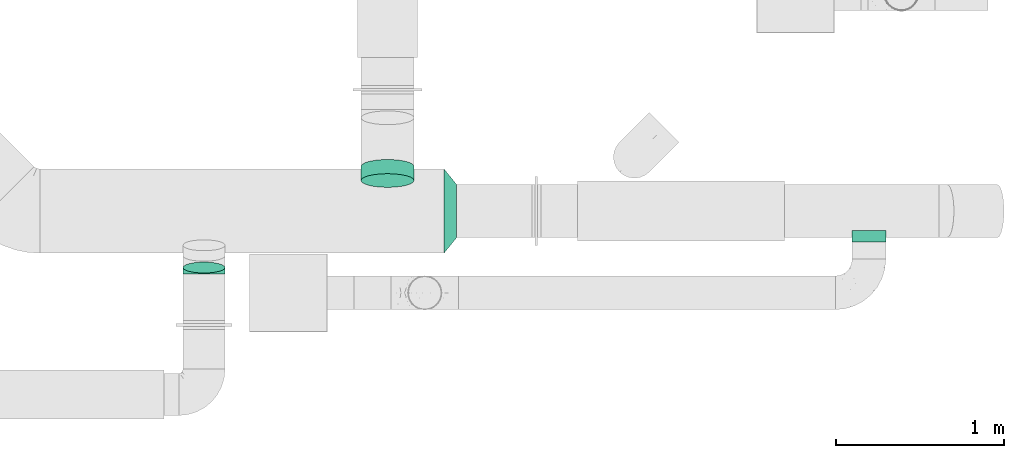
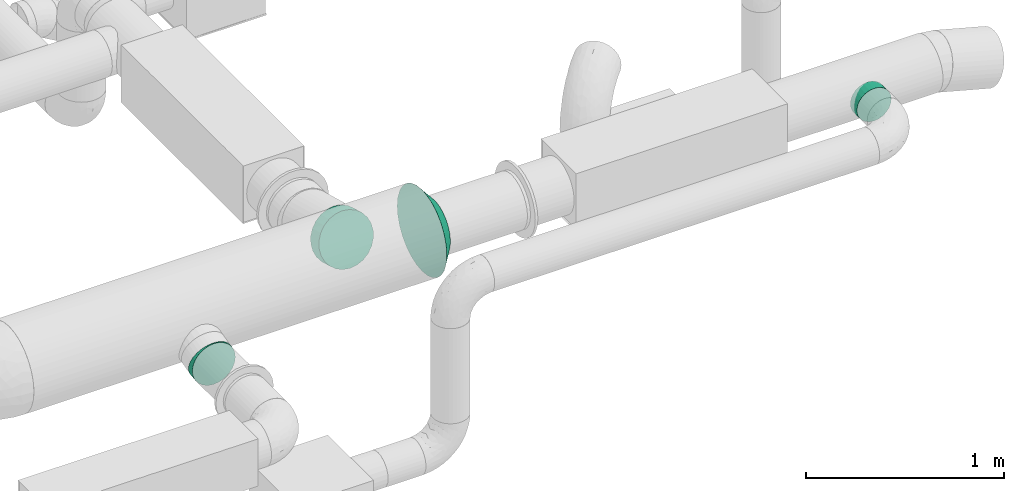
# One storey, part 29 of 31: 4 flow fittings.
"""IFC2X3 building model written with IfcOpenShell, lengths in millimetres."""

from ifc_helpers import new_model, entity, si_unit, converted_unit, derived_unit, direction, frame, origin_with_axes, place, context, subcontext, project, spatial, open_shell, surface_model, source, transform, mapped, type_object, element, save


model = new_model("IFC2X3")

# Units and contexts
model_context = context("Model", 3, precision=0.01, world=frame((0.0, 4.29681676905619e-09, 0.0)), true_north=direction((4.01073788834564e-13, 1.0)))
plan_context = context("Plan", 3, precision=0.01, world=frame((0.0, 4.29681676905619e-09, 0.0)), true_north=direction((4.01073788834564e-13, 1.0)))
body_context = subcontext(model_context, "Body", "Model", "MODEL_VIEW")
ifc_project = project(units=[converted_unit("PLANEANGLEUNIT", "DEGREE", entity("IfcPositiveLengthMeasure", 0.0174532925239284), si_unit("PLANEANGLEUNIT", "RADIAN"), dimensions=[0, 0, 0, 0, 0, 0, 0]), si_unit("AREAUNIT", "SQUARE_METRE"), si_unit("LENGTHUNIT", "METRE", prefix="MILLI"), si_unit("MASSUNIT", "GRAM", prefix="KILO"), si_unit("POWERUNIT", "WATT"), si_unit("PRESSUREUNIT", "PASCAL", prefix="KILO"), si_unit("FORCEUNIT", "NEWTON", prefix="KILO"), si_unit("ELECTRICVOLTAGEUNIT", "VOLT"), si_unit("ELECTRICCURRENTUNIT", "AMPERE"), si_unit("THERMODYNAMICTEMPERATUREUNIT", "DEGREE_CELSIUS"), si_unit("TIMEUNIT", "SECOND"), si_unit("VOLUMEUNIT", "CUBIC_METRE"), derived_unit("LINEARVELOCITYUNIT", [(si_unit("LENGTHUNIT", "METRE"), 1), (si_unit("TIMEUNIT", "SECOND"), -1)]), derived_unit("VOLUMETRICFLOWRATEUNIT", [(si_unit("VOLUMEUNIT", "CUBIC_METRE"), 1), (si_unit("TIMEUNIT", "SECOND"), -1)]), derived_unit("THERMALTRANSMITTANCEUNIT", [(si_unit("POWERUNIT", "WATT"), 1), (si_unit("THERMODYNAMICTEMPERATUREUNIT", "KELVIN"), -1), (si_unit("AREAUNIT", "SQUARE_METRE"), -1)]), derived_unit("SOUNDPRESSUREUNIT", [(si_unit("PRESSUREUNIT", "PASCAL"), 1)])], contexts=[model_context, plan_context])

# Site, building, storey
site_placement = place(None, frame((0.0, -4.29681676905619e-09, 0.0), z_axis=(0.0, 0.0, 1.0), x_axis=(1.0, 0.0, 0.0)))
site = spatial("IfcSite", under=ifc_project, at=site_placement, CompositionType="ELEMENT")
building_placement = place(site_placement, frame((0.0, 4.29681676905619e-09, 0.0), z_axis=(0.0, 0.0, 1.0), x_axis=(1.0, 0.0, 0.0)))
building = spatial("IfcBuilding", under=site, at=building_placement, Name="mc-building", CompositionType="ELEMENT")
storey_placement = place(building_placement, frame((0.0, 0.0, 210900.0), z_axis=(0.0, 0.0, 1.0), x_axis=(1.0, 0.0, 0.0)))
storey = spatial("IfcBuildingStorey", under=building, at=storey_placement, Name="Nivå F", CompositionType="ELEMENT", Elevation=210900.0)

# Flow fittings
duct_fitting_type_1 = type_object("IfcDuctFittingType", Name="magicirc_tapoutlet_001", PredefinedType="CONNECTOR")
shared_shape_1 = source(origin_with_axes(), body_context, "Body", "SurfaceModel", [
    surface_model("IfcShellBasedSurfaceModel", [(25.0, 40.764, -152.13332), (25.0, 157.5, 0.0), (25.0, 0.0, -157.5), (25.0, 78.75, -136.39901), (25.0, 136.39901, -78.75), (25.0, 111.36932, -111.36932), (25.0, -111.36932, -111.36932), (25.0, -152.13332, 40.764), (25.0, -78.75, -136.39901), (25.0, -40.764, -152.13332), (25.0, -136.39901, -78.75), (25.0, -152.13332, -40.764), (25.0, -157.5, 0.0), (25.0, 152.13332, -40.764), (25.0, 152.13332, 40.764), (25.0, 111.36932, 111.36932), (25.0, 136.39901, 78.75), (25.0, 78.75, 136.39901), (25.0, 40.764, 152.13332), (25.0, -111.36932, 111.36932), (25.0, -136.39901, 78.75), (25.0, -78.75, 136.39901), (25.0, -40.764, 152.13332), (25.0, 0.0, 157.5), (0.0, 0.0, 157.5), (0.0, 40.764, 152.13332), (0.0, 78.75, 136.39901), (0.0, 111.36932, 111.36932), (0.0, 136.39901, 78.75), (0.0, 152.13332, 40.764), (0.0, 157.5, 0.0), (0.0, 152.13332, -40.764), (0.0, 136.39901, -78.75), (0.0, 111.36932, -111.36932), (0.0, 0.0, -157.5), (0.0, 78.75, -136.39901), (0.0, 40.764, -152.13332), (0.0, -40.764, -152.13332), (0.0, -78.75, -136.39901), (0.0, -111.36932, -111.36932), (0.0, -136.39901, -78.75), (0.0, -152.13332, -40.764), (0.0, -157.5, 0.0), (0.0, -152.13332, 40.764), (0.0, -136.39901, 78.75), (0.0, -111.36932, 111.36932), (0.0, -78.75, 136.39901), (0.0, -40.764, 152.13332), (-61.94722, -111.36932, -111.36932), (-61.94722, -157.5, 0.0), (-61.94722, -78.75, -136.39901), (-61.94722, -152.13332, -40.764), (-61.94722, -136.39901, -78.75), (-61.94722, 111.36932, -111.36932), (-61.94722, 78.75, -136.39901), (-61.94722, 152.13332, -40.764), (-61.94722, 136.39901, -78.75), (-61.94722, 0.0, -157.5), (-61.94722, -40.764, -152.13332), (-61.94722, 40.764, -152.13332), (-61.94722, 152.13332, 40.764), (-61.94722, -152.13332, 40.764), (-61.94722, 111.36932, 111.36932), (-61.94722, 136.39901, 78.75), (-61.94722, 40.764, 152.13332), (-61.94722, 78.75, 136.39901), (-61.94722, 0.0, 157.5), (-61.94722, -111.36932, 111.36932), (-61.94722, -136.39901, 78.75), (-61.94722, -40.764, 152.13332), (-61.94722, -78.75, 136.39901), (-61.94722, 157.5, 0.0)], [open_shell([[[0, 1, 2]], [[3, 1, 0]], [[4, 1, 5]], [[5, 1, 3]], [[6, 2, 7]], [[2, 6, 8]], [[8, 9, 2]], [[10, 7, 11]], [[7, 10, 6]], [[11, 7, 12]], [[13, 1, 4]], [[2, 14, 15]], [[15, 14, 16]], [[17, 18, 2]], [[2, 15, 17]], [[2, 18, 19]], [[20, 7, 2]], [[19, 20, 2]], [[18, 21, 19]], [[22, 21, 18]], [[18, 23, 22]], [[1, 14, 2]], [[24, 23, 18]], [[25, 18, 17]], [[24, 18, 25]], [[26, 15, 27]], [[26, 25, 17]], [[15, 26, 17]], [[28, 16, 14]], [[29, 14, 1]], [[27, 16, 28]], [[29, 28, 14]], [[30, 29, 1]], [[16, 27, 15]], [[30, 1, 13]], [[31, 13, 4]], [[30, 13, 31]], [[32, 5, 33]], [[32, 31, 4]], [[5, 32, 4]], [[0, 2, 34]], [[3, 0, 35]], [[35, 33, 3]], [[36, 35, 0]], [[0, 34, 36]], [[3, 33, 5]], [[34, 2, 9]], [[37, 9, 8]], [[34, 9, 37]], [[38, 6, 39]], [[38, 37, 8]], [[6, 38, 8]], [[40, 10, 11]], [[41, 11, 12]], [[39, 10, 40]], [[41, 40, 11]], [[42, 41, 12]], [[10, 39, 6]], [[42, 12, 7]], [[43, 7, 20]], [[42, 7, 43]], [[44, 19, 45]], [[44, 43, 20]], [[19, 44, 20]], [[46, 21, 22]], [[47, 22, 23]], [[45, 21, 46]], [[47, 46, 22]], [[24, 47, 23]], [[21, 45, 19]], [[0, 14, 2]], [[14, 15, 2]], [[0, 1, 14]], [[48, 49, 50]], [[51, 49, 52]], [[40, 41, 51]], [[40, 51, 52]], [[50, 39, 48]], [[53, 33, 54]], [[55, 31, 32]], [[56, 55, 32]], [[57, 58, 59]], [[59, 60, 54]], [[53, 60, 56]], [[54, 60, 53]], [[59, 49, 61]], [[59, 58, 50]], [[48, 52, 49]], [[50, 49, 59]], [[55, 56, 60]], [[60, 59, 62]], [[63, 60, 62]], [[59, 64, 65]], [[65, 62, 59]], [[66, 64, 59]], [[67, 66, 68]], [[59, 61, 68]], [[69, 66, 70]], [[67, 70, 66]], [[59, 68, 66]], [[71, 55, 60]], [[66, 24, 25]], [[64, 25, 26]], [[66, 25, 64]], [[65, 27, 62]], [[65, 64, 26]], [[27, 65, 26]], [[63, 28, 29]], [[60, 29, 30]], [[62, 28, 63]], [[60, 63, 29]], [[71, 60, 30]], [[28, 62, 27]], [[71, 30, 31]], [[71, 31, 55]], [[56, 33, 53]], [[33, 56, 32]], [[59, 35, 36]], [[57, 36, 34]], [[59, 54, 35]], [[36, 57, 59]], [[54, 33, 35]], [[57, 34, 37]], [[58, 37, 38]], [[57, 37, 58]], [[50, 58, 38]], [[39, 50, 38]], [[41, 42, 51]], [[48, 40, 52]], [[49, 51, 42]], [[40, 48, 39]], [[49, 42, 43]], [[61, 43, 44]], [[49, 43, 61]], [[68, 45, 67]], [[68, 61, 44]], [[45, 68, 44]], [[70, 46, 47]], [[69, 47, 24]], [[67, 46, 70]], [[69, 70, 47]], [[66, 69, 24]], [[46, 67, 45]]])]),
])
flow_fitting_1_placement = place(storey_placement, frame((725584.4603, 438736.37985, 3885.29524000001), z_axis=(0.0, 0.258818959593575, 0.965925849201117), x_axis=(0.0, 0.965925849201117, -0.258818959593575)))
element("IfcFlowFitting", 1, at=flow_fitting_1_placement, inside=storey, type_object=duct_fitting_type_1, Name="magicirc_tapoutlet_001", context=body_context, shape_type="MappedRepresentation", body=[
    mapped(shared_shape_1, transform((0.0, 0.0, 0.0), scale=1.0)),
])
duct_fitting_type_2 = type_object("IfcDuctFittingType", Name="magicirc_elbow_short_001", PredefinedType="BEND")
shared_shape_2 = source(origin_with_axes(), body_context, "Body", "SurfaceModel", [
    surface_model("IfcShellBasedSurfaceModel", [(-19.74787, 0.0, -125.0), (-19.74787, -32.35238, -120.74073), (-19.74787, 32.35238, -120.74073), (-19.74787, 62.5, -108.25318), (-19.74787, 88.38835, -88.38835), (-19.74787, 108.25318, -62.5), (-19.74787, 120.74073, -32.35238), (-19.74787, -62.5, -108.25318), (-19.74787, -88.38835, -88.38835), (-19.74787, -125.0, 0.0), (-19.74787, -108.25318, -62.5), (-19.74787, -120.74073, -32.35238), (-19.74787, 125.0, 0.0), (-19.74787, -120.74073, 32.35238), (-19.74787, 120.74073, 32.35238), (-19.74787, 108.25318, 62.5), (-19.74787, 32.35238, 120.74073), (-19.74787, 62.5, 108.25318), (-19.74787, 88.38835, 88.38835), (-19.74787, -88.38835, 88.38835), (-19.74787, -108.25318, 62.5), (-19.74787, -32.35238, 120.74073), (-19.74787, 0.0, 125.0), (-19.74787, -62.5, 108.25318), (10.70157, 36.36113, -120.74073), (27.44839, -26.13887, -120.74073), (19.07498, 5.11113, -125.0), (-3.80161, 90.48772, -88.38835), (2.89879, 65.48149, -108.25318), (-8.943, 109.67566, -62.5), (-12.17502, 121.73772, -32.35238), (41.95157, -80.26546, -88.38835), (35.25117, -55.25924, -108.25318), (51.42736, -115.62961, 0.0), (47.09296, -99.45341, -62.5), (50.32498, -111.51546, -32.35238), (50.32498, -111.51546, 32.35238), (-3.80161, 90.48772, 88.38835), (-13.2774, 125.85186, 0.0), (-12.17502, 121.73772, 32.35238), (-8.943, 109.67566, 62.5), (2.89879, 65.48149, 108.25318), (10.70157, 36.36113, 120.74073), (19.07498, 5.11113, 125.0), (47.09296, -99.45341, 62.5), (35.25117, -55.25924, 108.25318), (41.95157, -80.26546, 88.38835), (27.44839, -26.13887, 120.74073), (-16.48472, 125.21388, 0.0), (16.14683, -122.64734, 0.0)], [open_shell([[[0, 1, 2]], [[3, 2, 4]], [[1, 5, 2]], [[4, 2, 5]], [[5, 1, 6]], [[7, 8, 1]], [[9, 1, 8]], [[10, 11, 8]], [[9, 8, 11]], [[9, 6, 1]], [[9, 12, 6]], [[12, 13, 14]], [[15, 14, 16]], [[16, 17, 18]], [[15, 16, 18]], [[16, 14, 19]], [[20, 19, 13]], [[19, 14, 13]], [[21, 22, 23]], [[19, 23, 22]], [[19, 22, 16]], [[9, 13, 12]], [[24, 25, 26]], [[27, 24, 28]], [[27, 29, 30]], [[27, 30, 24]], [[25, 24, 30]], [[25, 31, 32]], [[31, 25, 33]], [[34, 33, 35]], [[33, 34, 31]], [[25, 30, 33]], [[30, 36, 33]], [[37, 38, 39]], [[37, 39, 40]], [[37, 41, 42]], [[37, 42, 38]], [[38, 42, 43]], [[44, 45, 46]], [[44, 36, 38]], [[45, 43, 47]], [[45, 44, 38]], [[43, 45, 38]], [[38, 36, 30]], [[19, 46, 23]], [[19, 20, 44]], [[43, 22, 21]], [[21, 23, 45]], [[16, 22, 43]], [[36, 20, 13]], [[15, 18, 40]], [[17, 37, 18]], [[48, 14, 39]], [[48, 12, 14]], [[39, 14, 15]], [[41, 17, 16]], [[13, 9, 49]], [[45, 47, 21]], [[23, 46, 45]], [[47, 43, 21]], [[20, 36, 44]], [[19, 44, 46]], [[36, 49, 33]], [[40, 39, 15]], [[38, 48, 39]], [[41, 16, 42]], [[17, 41, 37]], [[40, 18, 37]], [[42, 16, 43]], [[13, 49, 36]], [[2, 26, 0]], [[0, 26, 1]], [[29, 4, 5]], [[4, 27, 3]], [[3, 28, 2]], [[5, 6, 30]], [[49, 9, 11]], [[35, 49, 11]], [[31, 8, 7]], [[11, 10, 35]], [[8, 34, 10]], [[32, 7, 1]], [[6, 12, 48]], [[48, 38, 30]], [[30, 29, 5]], [[3, 27, 28]], [[2, 28, 24]], [[4, 29, 27]], [[24, 26, 2]], [[32, 1, 25]], [[31, 7, 32]], [[10, 34, 35]], [[35, 33, 49]], [[34, 8, 31]], [[26, 25, 1]], [[6, 48, 30]]])]),
])
flow_fitting_2_placement = place(storey_placement, frame((724493.89393, 438140.35357, 3855.0), z_axis=(-1.0, 0.0, 0.0), x_axis=(0.0, -0.965925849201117, -0.258818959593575)))
element("IfcFlowFitting", 2, at=flow_fitting_2_placement, inside=storey, type_object=duct_fitting_type_2, Name="magicirc_elbow_short_001", context=body_context, shape_type="MappedRepresentation", body=[
    mapped(shared_shape_2, transform((0.0, 0.0, 0.0), scale=1.0)),
])
shared_shape_3 = source(origin_with_axes(), body_context, "Body", "SurfaceModel", [
    surface_model("IfcShellBasedSurfaceModel", [(-41.91507, 100.0, 0.0), (-41.91507, 96.59259, -25.8819), (-41.91507, 96.59259, 25.8819), (0.0, 25.8819, -96.59259), (0.0, 0.0, -100.0), (-41.91507, 0.0, -100.0), (0.0, -25.8819, -96.59259), (-41.91507, -25.8819, -96.59259), (-41.91507, -100.0, 0.0), (-41.91507, -50.0, -86.60254), (-41.91507, -70.71068, -70.71068), (-41.91507, -86.60254, -50.0), (-41.91507, 70.71068, -70.71068), (-41.91507, 50.0, -86.60254), (-41.91507, 25.8819, -96.59259), (-41.91507, 86.60254, -50.0), (-41.91507, -96.59259, -25.8819), (-41.91507, -96.59259, 25.8819), (-41.91507, -86.60254, 50.0), (-41.91507, -70.71068, 70.71068), (-41.91507, -25.8819, 96.59259), (-41.91507, -50.0, 86.60254), (-41.91507, 25.8819, 96.59259), (-41.91507, 70.71068, 70.71068), (-41.91507, 86.60254, 50.0), (-41.91507, 50.0, 86.60254), (-41.91507, 0.0, 100.0), (0.0, -25.8819, 96.59259), (0.0, 0.0, 100.0), (0.0, -50.0, 86.60254), (0.0, -70.71068, 70.71068), (0.0, -96.59259, 25.8819), (0.0, -86.60254, 50.0), (0.0, -100.0, 0.0), (0.0, -96.59259, -25.8819), (0.0, -86.60254, -50.0), (0.0, -70.71068, -70.71068), (0.0, -50.0, -86.60254), (0.0, 50.0, -86.60254), (0.0, 70.71068, -70.71068), (0.0, 96.59259, -25.8819), (0.0, 86.60254, -50.0), (0.0, 100.0, 0.0), (0.0, 96.59259, 25.8819), (0.0, 86.60254, 50.0), (0.0, 70.71068, 70.71068), (0.0, 25.8819, 96.59259), (0.0, 50.0, 86.60254), (25.0, 0.0, -100.0), (25.0, 25.8819, -96.59259), (25.0, -25.8819, -96.59259), (25.0, -96.59259, 25.8819), (25.0, -50.0, -86.60254), (25.0, -86.60254, -50.0), (25.0, -70.71068, -70.71068), (25.0, 100.0, 0.0), (25.0, 96.59259, 25.8819), (25.0, 70.71068, -70.71068), (25.0, 50.0, -86.60254), (25.0, 96.59259, -25.8819), (25.0, 86.60254, -50.0), (25.0, -96.59259, -25.8819), (25.0, -86.60254, 50.0), (25.0, -70.71068, 70.71068), (25.0, -50.0, 86.60254), (25.0, -25.8819, 96.59259), (25.0, 0.0, 100.0), (25.0, 86.60254, 50.0), (25.0, 70.71068, 70.71068), (25.0, 25.8819, 96.59259), (25.0, 50.0, 86.60254), (25.0, -100.0, 0.0)], [open_shell([[[0, 1, 2]], [[3, 4, 5]], [[5, 4, 6]], [[7, 8, 5]], [[9, 8, 7]], [[8, 10, 11]], [[8, 9, 10]], [[12, 5, 2]], [[5, 13, 14]], [[5, 12, 13]], [[15, 2, 1]], [[2, 15, 12]], [[8, 11, 16]], [[17, 18, 5]], [[18, 19, 5]], [[20, 5, 21]], [[5, 19, 21]], [[5, 20, 22]], [[5, 23, 24]], [[2, 5, 24]], [[5, 25, 23]], [[22, 25, 5]], [[20, 26, 22]], [[17, 5, 8]], [[27, 28, 26]], [[29, 27, 20]], [[20, 27, 26]], [[19, 30, 21]], [[29, 20, 21]], [[29, 21, 30]], [[31, 32, 18]], [[33, 31, 17]], [[18, 32, 19]], [[31, 18, 17]], [[33, 17, 8]], [[30, 19, 32]], [[34, 33, 8]], [[35, 34, 16]], [[16, 34, 8]], [[10, 36, 11]], [[35, 16, 11]], [[35, 11, 36]], [[9, 6, 37]], [[37, 10, 9]], [[6, 7, 5]], [[7, 6, 9]], [[36, 10, 37]], [[38, 3, 14]], [[14, 3, 5]], [[12, 39, 13]], [[38, 14, 13]], [[38, 13, 39]], [[40, 41, 15]], [[42, 40, 1]], [[15, 41, 12]], [[40, 15, 1]], [[42, 1, 0]], [[39, 12, 41]], [[43, 42, 0]], [[44, 43, 2]], [[2, 43, 0]], [[23, 45, 24]], [[44, 2, 24]], [[44, 24, 45]], [[46, 47, 25]], [[28, 46, 22]], [[25, 47, 23]], [[46, 25, 22]], [[28, 22, 26]], [[45, 23, 47]], [[18, 5, 17]], [[8, 17, 5]], [[48, 49, 50]], [[50, 51, 52]], [[53, 54, 51]], [[51, 54, 52]], [[50, 55, 56]], [[57, 55, 58]], [[50, 49, 58]], [[59, 55, 60]], [[57, 60, 55]], [[58, 55, 50]], [[61, 53, 51]], [[62, 51, 50]], [[50, 63, 62]], [[64, 50, 65]], [[64, 63, 50]], [[66, 65, 50]], [[67, 68, 50]], [[50, 56, 67]], [[69, 66, 70]], [[50, 68, 70]], [[70, 66, 50]], [[71, 61, 51]], [[65, 66, 28]], [[64, 65, 27]], [[27, 65, 28]], [[30, 63, 29]], [[64, 27, 29]], [[64, 29, 63]], [[51, 62, 32]], [[71, 51, 31]], [[32, 62, 30]], [[51, 32, 31]], [[71, 31, 33]], [[63, 30, 62]], [[61, 71, 33]], [[53, 61, 34]], [[34, 61, 33]], [[36, 54, 35]], [[53, 34, 35]], [[53, 35, 54]], [[6, 48, 50]], [[37, 50, 52]], [[37, 52, 36]], [[48, 6, 4]], [[37, 6, 50]], [[54, 36, 52]], [[49, 48, 4]], [[58, 49, 3]], [[3, 49, 4]], [[39, 57, 38]], [[58, 3, 38]], [[58, 38, 57]], [[59, 60, 41]], [[55, 59, 40]], [[41, 60, 39]], [[59, 41, 40]], [[55, 40, 42]], [[57, 39, 60]], [[56, 55, 42]], [[67, 56, 43]], [[43, 56, 42]], [[45, 68, 44]], [[67, 43, 44]], [[67, 44, 68]], [[69, 70, 47]], [[66, 69, 46]], [[47, 70, 45]], [[69, 47, 46]], [[66, 46, 28]], [[68, 45, 70]], [[64, 62, 50]], [[63, 62, 64]], [[56, 67, 50]], [[66, 50, 70]]])]),
])
flow_fitting_3_placement = place(storey_placement, frame((728445.46533, 438337.39839, 3950.0), z_axis=(0.0, 0.0, -1.0), x_axis=(0.0, -1.0, 0.0)))
element("IfcFlowFitting", 3, at=flow_fitting_3_placement, inside=storey, type_object=duct_fitting_type_1, Name="magicirc_tapoutlet_001", context=body_context, shape_type="MappedRepresentation", body=[
    mapped(shared_shape_3, transform((0.0, 0.0, 0.0), scale=1.0)),
])
duct_fitting_type_3 = type_object("IfcDuctFittingType", Name="magicirc_reduction_001", PredefinedType="TRANSITION")
shared_shape_4 = source(origin_with_axes(), body_context, "Body", "SurfaceModel", [
    surface_model("IfcShellBasedSurfaceModel", [(0.0, 250.0, 0.0), (0.0, 0.0, 250.0), (0.0, 55.63023, 243.73198), (0.0, 108.47093, 225.24221), (0.0, 155.87244, 195.45787), (0.0, 195.45787, 155.87244), (0.0, 225.24221, 108.47093), (0.0, 243.73198, 55.63023), (0.0, 0.0, -250.0), (0.0, -55.63023, -243.73198), (0.0, 55.63023, -243.73198), (0.0, -243.73198, -55.63023), (0.0, -108.47093, 225.24221), (0.0, -155.87244, 195.45787), (0.0, -195.45787, 155.87244), (0.0, -225.24221, 108.47093), (0.0, -250.0, 0.0), (0.0, -243.73198, 55.63023), (0.0, -195.45787, -155.87244), (0.0, -225.24221, -108.47093), (0.0, -155.87244, -195.45787), (0.0, -108.47093, -225.24221), (0.0, 108.47093, -225.24221), (0.0, 155.87244, -195.45787), (0.0, -55.63023, 243.73198), (0.0, 243.73198, -55.63023), (0.0, 195.45787, -155.87244), (0.0, 225.24221, -108.47093), (75.0, 78.75, 136.39901), (75.0, 40.764, 152.13332), (75.0, 0.0, 157.5), (75.0, -157.5, 0.0), (75.0, -40.764, 152.13332), (75.0, -78.75, 136.39901), (75.0, -111.36932, 111.36932), (75.0, -136.39901, 78.75), (75.0, 152.13332, -40.764), (75.0, 111.36932, 111.36932), (75.0, 152.13332, 40.764), (75.0, 157.5, 0.0), (75.0, 136.39901, -78.75), (75.0, 78.75, -136.39901), (75.0, 111.36932, -111.36932), (75.0, 136.39901, 78.75), (75.0, -152.13332, 40.764), (75.0, -40.764, -152.13332), (75.0, -152.13332, -40.764), (75.0, -111.36932, -111.36932), (75.0, -136.39901, -78.75), (75.0, -78.75, -136.39901), (75.0, 40.764, -152.13332), (75.0, 0.0, -157.5)], [open_shell([[[0, 1, 2]], [[3, 0, 2]], [[0, 4, 5]], [[0, 3, 4]], [[6, 7, 0]], [[8, 9, 10]], [[0, 11, 1]], [[6, 0, 5]], [[12, 11, 13]], [[13, 11, 14]], [[15, 14, 11]], [[11, 16, 17]], [[17, 15, 11]], [[11, 18, 19]], [[20, 18, 21]], [[22, 10, 23]], [[9, 21, 10]], [[24, 1, 11]], [[11, 12, 24]], [[25, 11, 0]], [[26, 25, 27]], [[11, 25, 21]], [[28, 29, 30]], [[31, 30, 32]], [[33, 31, 32]], [[31, 34, 35]], [[28, 36, 37]], [[38, 36, 39]], [[40, 41, 42]], [[31, 36, 30]], [[33, 34, 31]], [[28, 30, 36]], [[36, 43, 37]], [[36, 38, 43]], [[31, 35, 44]], [[45, 31, 46]], [[47, 46, 48]], [[47, 49, 45]], [[47, 45, 46]], [[31, 45, 41]], [[40, 36, 31]], [[31, 41, 40]], [[45, 50, 41]], [[51, 50, 45]], [[26, 23, 10]], [[26, 10, 25]], [[21, 25, 10]], [[18, 11, 21]], [[36, 25, 39]], [[40, 27, 36]], [[23, 42, 41]], [[41, 50, 22]], [[51, 10, 50]], [[40, 42, 26]], [[51, 8, 10]], [[36, 27, 25]], [[25, 0, 39]], [[22, 23, 41]], [[26, 42, 23]], [[26, 27, 40]], [[10, 22, 50]], [[45, 49, 21]], [[51, 45, 9]], [[48, 46, 19]], [[18, 47, 48]], [[49, 47, 20]], [[11, 46, 31]], [[21, 9, 45]], [[21, 49, 20]], [[20, 47, 18]], [[48, 19, 18]], [[11, 19, 46]], [[16, 11, 31]], [[51, 9, 8]], [[44, 17, 31]], [[35, 15, 44]], [[13, 34, 33]], [[33, 32, 12]], [[30, 24, 32]], [[35, 34, 14]], [[30, 1, 24]], [[44, 15, 17]], [[17, 16, 31]], [[12, 13, 33]], [[14, 34, 13]], [[14, 15, 35]], [[24, 12, 32]], [[29, 28, 3]], [[30, 29, 2]], [[43, 38, 6]], [[5, 37, 43]], [[28, 37, 4]], [[7, 38, 39]], [[3, 2, 29]], [[3, 28, 4]], [[4, 37, 5]], [[43, 6, 5]], [[7, 6, 38]], [[0, 7, 39]], [[30, 2, 1]]])]),
])
flow_fitting_4_placement = place(storey_placement, frame((725920.39996, 438494.89839, 3950.0), z_axis=(0.0, 0.0, 1.0), x_axis=(1.0, 0.0, 0.0)))
element("IfcFlowFitting", 4, at=flow_fitting_4_placement, inside=storey, type_object=duct_fitting_type_3, Name="magicirc_reduction_001", context=body_context, shape_type="MappedRepresentation", body=[
    mapped(shared_shape_4, transform((0.0, 0.0, 0.0), scale=1.0)),
])

save(model, "model.ifc")
